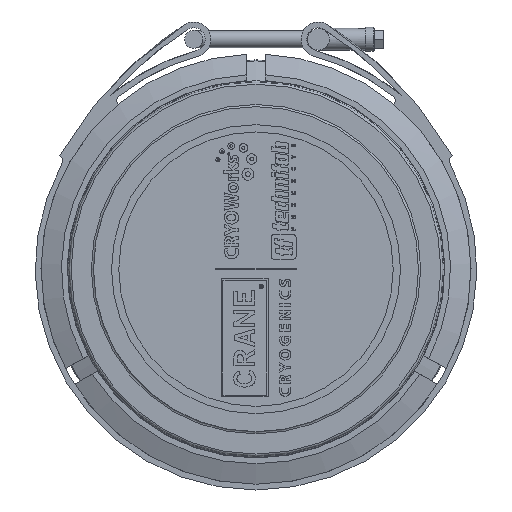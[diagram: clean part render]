
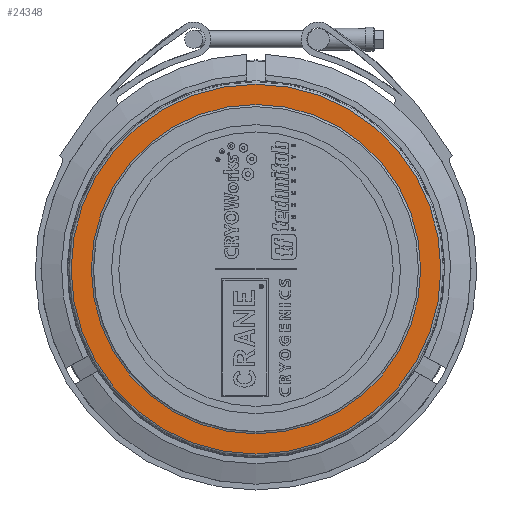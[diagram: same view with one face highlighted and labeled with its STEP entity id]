
A CAD part, left-side view. The second image highlights one B-rep face of the part: STEP entity #24348.
In plain terms, the highlighted planar face has unit normal (-1, 0, 0).
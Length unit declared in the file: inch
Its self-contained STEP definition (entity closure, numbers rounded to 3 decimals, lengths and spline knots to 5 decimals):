
#544 = VERTEX_POINT ( 'NONE', #28178 ) ;
#842 = AXIS2_PLACEMENT_3D ( 'NONE', #24393, #25276, #11437 ) ;
#1678 = FACE_OUTER_BOUND ( 'NONE', #20275, .T. ) ;
#4152 = PLANE ( 'NONE',  #7232 ) ;
#4981 = CARTESIAN_POINT ( 'NONE',  ( -0.375, 0., 2.28 ) ) ;
#7232 = AXIS2_PLACEMENT_3D ( 'NONE', #25548, #31355, #21537 ) ;
#7651 = ORIENTED_EDGE ( 'NONE', *, *, #24650, .T. ) ;
#8761 = VERTEX_POINT ( 'NONE', #4981 ) ;
#11437 = DIRECTION ( 'NONE',  ( 0., 0., 1. ) ) ;
#14184 = EDGE_CURVE ( 'NONE', #544, #544, #25992, .T. ) ;
#18186 = FACE_BOUND ( 'NONE', #30005, .T. ) ;
#20275 = EDGE_LOOP ( 'NONE', ( #39152 ) ) ;
#21537 = DIRECTION ( 'NONE',  ( 0., 0., 1. ) ) ;
#21718 = AXIS2_PLACEMENT_3D ( 'NONE', #24188, #37341, #26652 ) ;
#24188 = CARTESIAN_POINT ( 'NONE',  ( -0.375, 0., 0. ) ) ;
#24348 = ADVANCED_FACE ( 'NONE', ( #1678, #18186 ), #4152, .T. ) ;
#24393 = CARTESIAN_POINT ( 'NONE',  ( -0.375, 0., 0. ) ) ;
#24650 = EDGE_CURVE ( 'NONE', #8761, #8761, #38574, .T. ) ;
#25276 = DIRECTION ( 'NONE',  ( 1., 0., 0. ) ) ;
#25548 = CARTESIAN_POINT ( 'NONE',  ( -0.375, 2.25, 0. ) ) ;
#25992 = CIRCLE ( 'NONE', #21718, 2.56 ) ;
#26652 = DIRECTION ( 'NONE',  ( 0., 0., 1. ) ) ;
#28178 = CARTESIAN_POINT ( 'NONE',  ( -0.375, 0., 2.56 ) ) ;
#30005 = EDGE_LOOP ( 'NONE', ( #7651 ) ) ;
#31355 = DIRECTION ( 'NONE',  ( -1., 0., 0. ) ) ;
#37341 = DIRECTION ( 'NONE',  ( -1., 0., 0. ) ) ;
#38574 = CIRCLE ( 'NONE', #842, 2.28 ) ;
#39152 = ORIENTED_EDGE ( 'NONE', *, *, #14184, .T. ) ;
